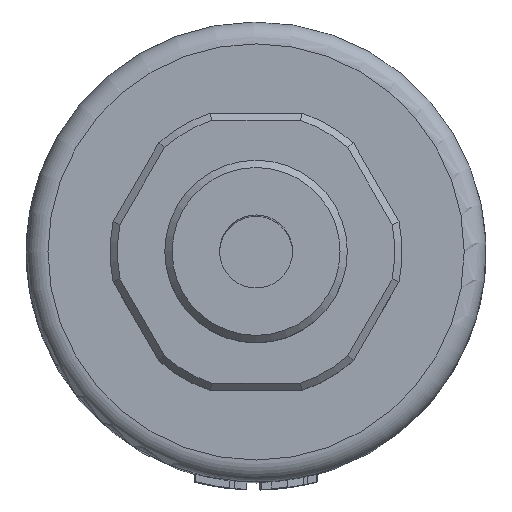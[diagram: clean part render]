
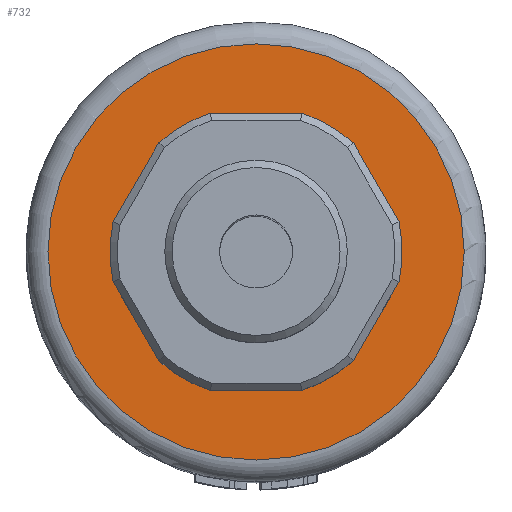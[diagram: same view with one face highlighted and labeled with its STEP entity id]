
A CAD part, top view. The second image highlights one B-rep face of the part: STEP entity #732.
In plain terms, the highlighted planar face has unit normal (0, 0, 1).
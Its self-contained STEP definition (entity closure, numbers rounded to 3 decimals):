
#115=FACE_BOUND('',#1608,.T.);
#116=FACE_BOUND('',#1609,.T.);
#274=CIRCLE('',#6954,14.25);
#275=CIRCLE('',#6955,6.);
#433=PLANE('',#6956);
#732=ADVANCED_FACE('',(#115,#116),#433,.F.);
#1608=EDGE_LOOP('',(#3367));
#1609=EDGE_LOOP('',(#3368));
#3367=ORIENTED_EDGE('',*,*,#5618,.T.);
#3368=ORIENTED_EDGE('',*,*,#5619,.T.);
#4741=VERTEX_POINT('',#14600);
#4742=VERTEX_POINT('',#14602);
#5618=EDGE_CURVE('',#4741,#4741,#274,.T.);
#5619=EDGE_CURVE('',#4742,#4742,#275,.T.);
#6954=AXIS2_PLACEMENT_3D('',#14599,#7934,#7935);
#6955=AXIS2_PLACEMENT_3D('',#14601,#7936,#7937);
#6956=AXIS2_PLACEMENT_3D('',#14603,#7938,#7939);
#7934=DIRECTION('',(0.,0.,1.));
#7935=DIRECTION('',(-1.,0.,0.));
#7936=DIRECTION('',(0.,0.,-1.));
#7937=DIRECTION('',(-1.,0.,0.));
#7938=DIRECTION('',(0.,0.,-1.));
#7939=DIRECTION('',(1.,0.,0.));
#14599=CARTESIAN_POINT('',(0.,0.,41.));
#14600=CARTESIAN_POINT('',(-14.25,0.,41.));
#14601=CARTESIAN_POINT('',(0.,0.,41.));
#14602=CARTESIAN_POINT('',(-6.,0.,41.));
#14603=CARTESIAN_POINT('',(0.,0.,41.));
